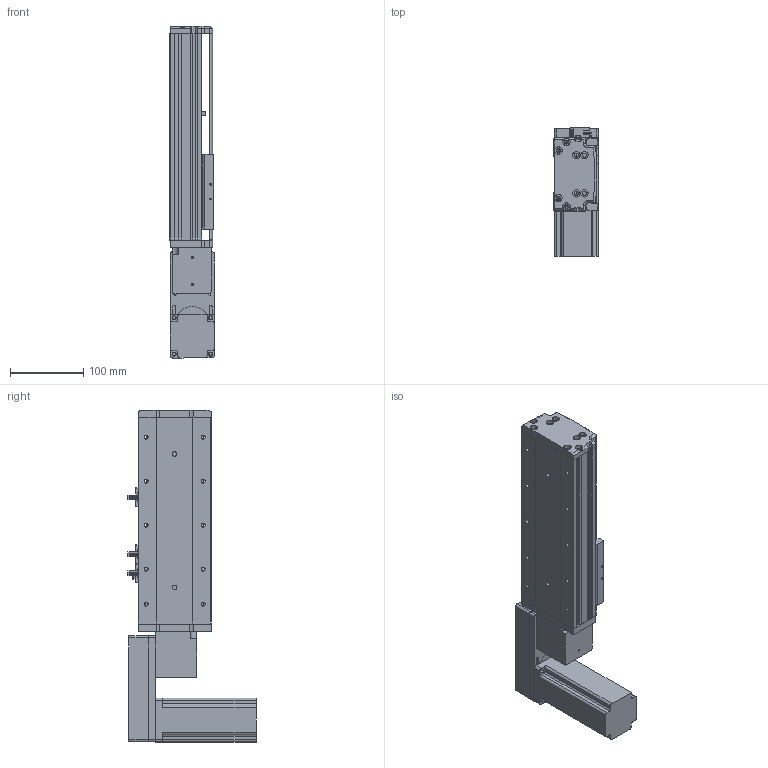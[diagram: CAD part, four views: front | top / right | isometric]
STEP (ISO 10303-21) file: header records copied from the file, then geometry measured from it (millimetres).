
FILE_DESCRIPTION (( 'STEP AP214' ), '1' );
FILE_NAME ('KSD100B-S100-MLB-CM.STEP', '2019-08-31T01:27:01', ( '微软用户' ), ( '微软中国' ), 'SwSTEP 2.0', 'SolidWorks 2014', '' );
FILE_SCHEMA (( 'AUTOMOTIVE_DESIGN' ));
Length unit declared in the file: millimetre
Products named in the file (12): 悵誘欶奻狟殏; 100宽马达安装板连板上下折丝杆同步带; 台达ECMA－C20604AS伺服电机; U倰嫖萇EEㄜSX672; 覜茼え100遵圉猾敕; 100宽防尘板100行程-同步带; 100宽马达安装板同步带左; 100宽同步带安装板半封闭; 100宽马达安装板同步带; 100遵傷啣肮祭湍; 100宽底板半封闭同步带100行程; KSD100B-S100-MLB-CM
Assembly tree (13 placements, depth 2):
  KSD100B-S100-MLB-CM
    100宽底板半封闭同步带100行程
    100遵傷啣肮祭湍
    100宽马达安装板同步带
    100宽同步带安装板半封闭
    100宽马达安装板同步带左
    100宽防尘板100行程-同步带
    覜茼え100遵圉猾敕
    U倰嫖萇EEㄜSX672  x3
    台达ECMA－C20604AS伺服电机
    100宽马达安装板连板上下折丝杆同步带
    悵誘欶奻狟殏
Bounding box: 61 x 174.7 x 453 mm (x, y, z)
Volume: 1316423.4 mm3; surface area: 386792.1 mm2
Topology: 14 solids, 14 shells, 1259 faces, 3522 edges, 2277 vertices
Faces by surface type: cylinder 609, plane 571, cone 79
Entity records: 43311 total; most frequent: CARTESIAN_POINT 7840, DIRECTION 6038, ORIENTED_EDGE 5792, EDGE_CURVE 2896, AXIS2_PLACEMENT_3D 2181, VERTEX_POINT 1901, VECTOR 1676, LINE 1676
